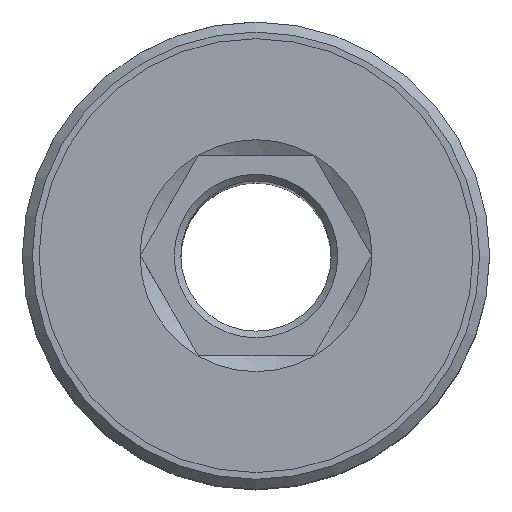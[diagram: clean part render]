
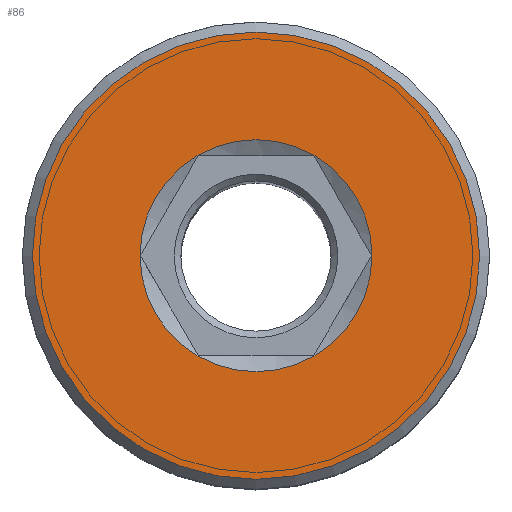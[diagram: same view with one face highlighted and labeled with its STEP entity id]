
A CAD part, top view. The second image highlights one B-rep face of the part: STEP entity #86.
In plain terms, the highlighted planar face has unit normal (0, 0, 1).
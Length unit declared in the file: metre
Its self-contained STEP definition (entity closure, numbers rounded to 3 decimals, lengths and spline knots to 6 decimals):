
#86=ADVANCED_FACE('',(#179,#180),#181,.F.);
#179=FACE_BOUND('',#307,.T.);
#180=FACE_OUTER_BOUND('',#308,.T.);
#181=PLANE('',#309);
#307=EDGE_LOOP('',(#440));
#308=EDGE_LOOP('',(#441));
#309=AXIS2_PLACEMENT_3D('',#442,#443,#444);
#440=ORIENTED_EDGE('',*,*,#600,.F.);
#441=ORIENTED_EDGE('',*,*,#618,.T.);
#442=CARTESIAN_POINT('',(-0.00255,0.,-0.001));
#443=DIRECTION('',(0.0,0.,-1.0));
#444=DIRECTION('',(0.0,1.0,0.));
#600=EDGE_CURVE('',#674,#674,#675,.T.);
#618=EDGE_CURVE('',#703,#703,#704,.F.);
#674=VERTEX_POINT('',#785);
#675=CIRCLE('',#786,0.003475);
#703=VERTEX_POINT('',#863);
#704=CIRCLE('',#864,0.0067);
#785=CARTESIAN_POINT('',(0.003475,0.,-0.001));
#786=AXIS2_PLACEMENT_3D('',#951,#952,#953);
#863=CARTESIAN_POINT('',(0.,0.0067,-0.001));
#864=AXIS2_PLACEMENT_3D('',#961,#962,#963);
#951=CARTESIAN_POINT('',(0.0,0.,-0.001));
#952=DIRECTION('',(0.0,0.0,1.0));
#953=DIRECTION('',(1.0,0.0,0.0));
#961=CARTESIAN_POINT('',(0.0,0.,-0.001));
#962=DIRECTION('',(0.0,0.,-1.0));
#963=DIRECTION('',(0.0,1.0,0.));
